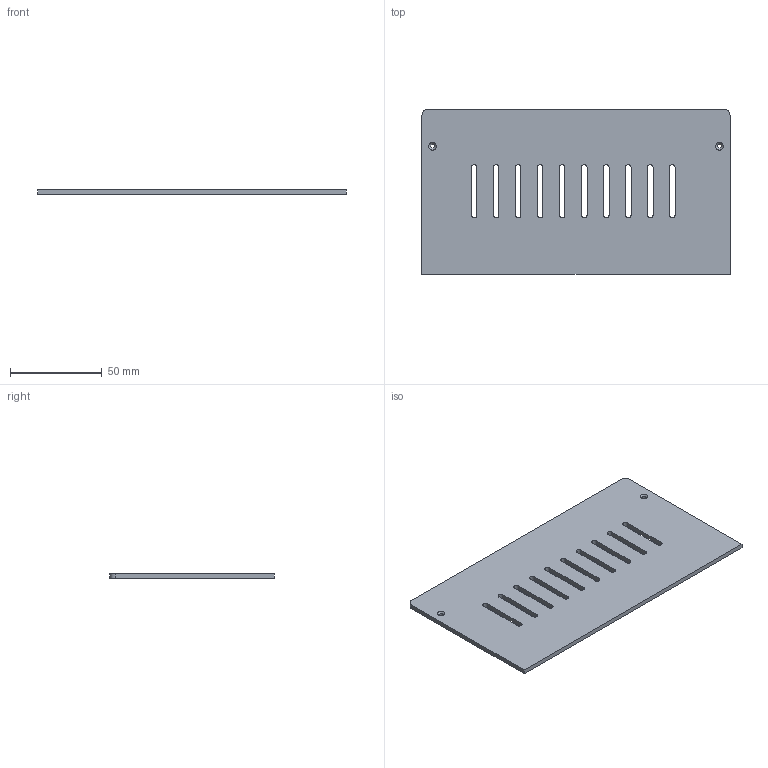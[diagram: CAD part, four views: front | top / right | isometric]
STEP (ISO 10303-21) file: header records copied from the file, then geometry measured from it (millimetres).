
FILE_DESCRIPTION(('Open CASCADE Model'),'2;1');
FILE_NAME('Open CASCADE Shape Model','2026-11-07T14:43:38',('Author'),( 'Open CASCADE'),'Open CASCADE STEP processor 7.9','Open CASCADE 7.9' ,'Unknown');
FILE_SCHEMA(('AUTOMOTIVE_DESIGN { 1 0 10303 214 1 1 1 1 }'));
Length unit declared in the file: millimetre
Products named in the file (1): Open CASCADE STEP translator 7.9 17
Bounding box: 168 x 89.8 x 2.5 mm (x, y, z)
Volume: 35543 mm3; surface area: 31295.1 mm2
Topology: 1 solids, 1 shells, 92 faces, 268 edges, 178 vertices
Faces by surface type: plane 46, cylinder 44, cone 2
Full cylindrical faces by diameter (mm): 2.3 x2
Entity records: 6452 total; most frequent: CARTESIAN_POINT 1267, DIRECTION 908, ORIENTED_EDGE 536, PCURVE 536, DEFINITIONAL_REPRESENTATION 536, LINE 458, VECTOR 458, EDGE_CURVE 268
